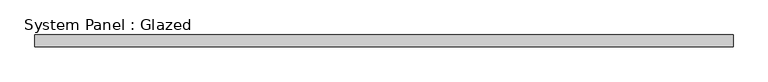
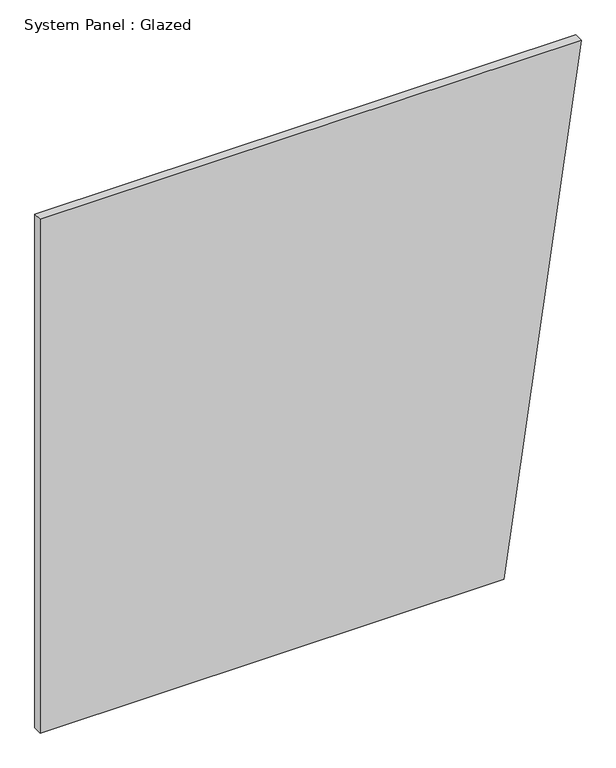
"""IFC4 building model written with IfcOpenShell, lengths in millimetres: plate geometry, System Panel : Glazed."""

from ifc_helpers import new_model, si_unit, frame, origin, place, context, project, spatial, polyline, outline, extrude, source, transform, mapped, element, save


def system_panel_glazed_3f6d0544(model_context):
    return source(origin(), model_context, "Body", "SweptSolid", [
        extrude(outline(polyline([(0.0, -759.6587428), (0.0, 542.6133877), (1524.0, 759.6587428), (1524.0, -759.6587428), (0.0, -759.6587428)])), frame((0.0, 19.05, 0.0), z_axis=(0.0, 1.0, 0.0), x_axis=(0.0, 0.0, 1.0)), (0.0, 0.0, 1.0), 25.4),
    ])


if __name__ == "__main__":
    model = new_model("IFC4")
    model_context = context("Model", 3, world=origin())
    ifc_project = project(units=[si_unit("LENGTHUNIT", "METRE", prefix="MILLI")], contexts=[model_context])
    site = spatial("IfcSite", under=ifc_project)
    building = spatial("IfcBuilding", under=site)
    placement = place(None, origin())
    system_panel_glazed_shape = system_panel_glazed_3f6d0544(model_context)
    element("IfcPlate", 1, ObjectType="System Panel : Glazed", at=placement, inside=building, context=model_context, shape_type="MappedRepresentation", body=[
        mapped(system_panel_glazed_shape, transform((0.0, 0.0, 0.0), x_axis=(1.0, 0.0, 0.0), y_axis=(0.0, 1.0, 0.0), z_axis=(0.0, 0.0, 1.0))),
    ])
    save(model, "model.ifc")
